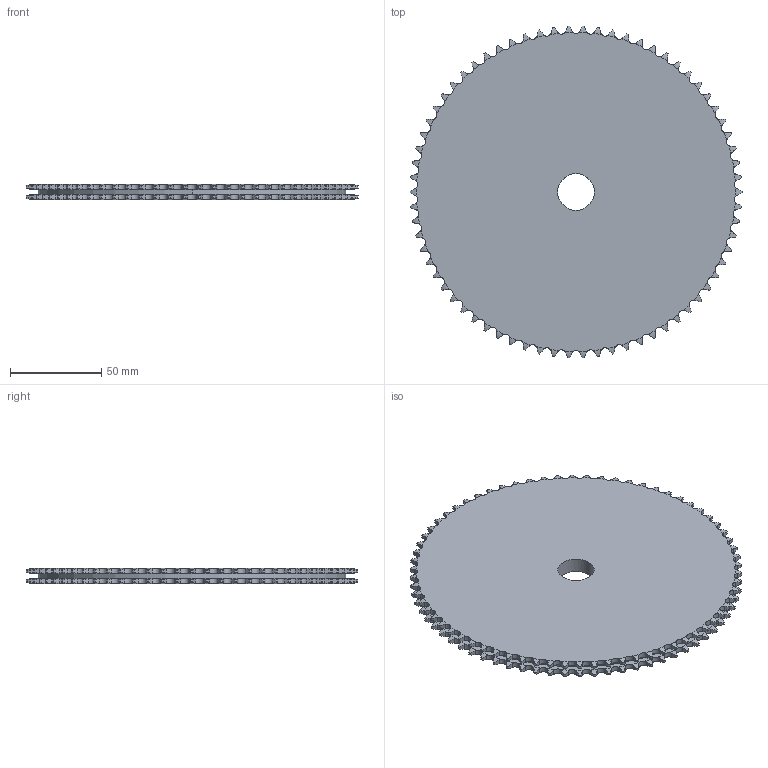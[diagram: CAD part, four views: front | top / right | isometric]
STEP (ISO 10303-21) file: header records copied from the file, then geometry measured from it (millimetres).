
FILE_DESCRIPTION((''),'2;1');
FILE_NAME('500-082-0070_PRT','2021-02-12T',('Brieden'),('Brieden'),'PRO/ENGINEER BY PARAMETRIC TECHNOLOGY CORPORATION, 2010160','PRO/ENGINEER BY PARAMETRIC TECHNOLOGY CORPORATION, 2010160','');
FILE_SCHEMA(('AUTOMOTIVE_DESIGN { 1 0 10303 214 1 1 1 1 }'));
Length unit declared in the file: millimetre
Products named in the file (1): 500-082-0070_PRT
Bounding box: 181.5 x 181.35 x 8.3 mm (x, y, z)
Volume: 193951.1 mm3; surface area: 58801.8 mm2
Topology: 1 solids, 1 shells, 848 faces, 2532 edges, 1688 vertices
Faces by surface type: cylinder 564, torus 280, plane 4
Entity records: 40260 total; most frequent: CARTESIAN_POINT 11157, ORIENTED_EDGE 5064, DIRECTION 3956, PRESENTATION_STYLE_ASSIGNMENT 2533, STYLED_ITEM 2533, CURVE_STYLE 2532, EDGE_CURVE 2532, AXIS2_PLACEMENT_3D 1696
